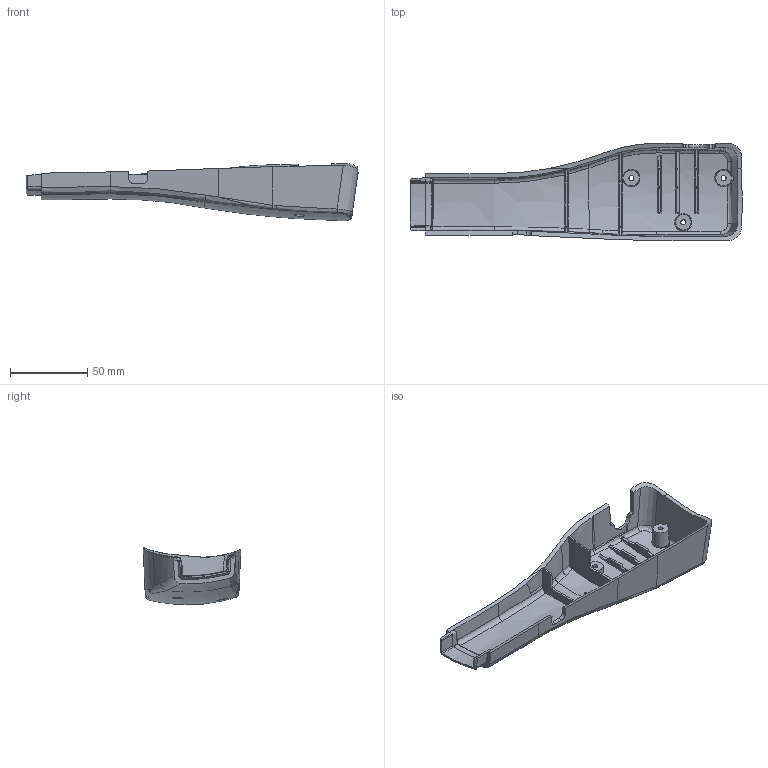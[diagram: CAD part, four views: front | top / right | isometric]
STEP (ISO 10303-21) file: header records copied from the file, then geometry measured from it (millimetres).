
FILE_DESCRIPTION (( 'STEP AP214' ), '1' );
FILE_NAME ('P-00106 - Servo Cover - v2.2.3_Right Motor Cover.STEP', '2026-06-12T21:53:00', ( '' ), ( '' ), 'SwSTEP 2.0', 'SolidWorks 2023', '' );
FILE_SCHEMA (( 'AUTOMOTIVE_DESIGN' ));
Length unit declared in the file: inch
Products named in the file (1): P-00106 - Servo Cover - v2.2.3_Right Motor Cover
Bounding box: 214.3 x 63 x 36.97 mm (x, y, z)
Volume: 56042.9 mm3; surface area: 43092.6 mm2
Topology: 1 solids, 1 shells, 286 faces, 751 edges, 463 vertices
Faces by surface type: bspline 148, plane 67, cylinder 32, cone 28, sphere 8, torus 3
Entity records: 17868 total; most frequent: CARTESIAN_POINT 12257, ORIENTED_EDGE 1484, EDGE_CURVE 742, DIRECTION 698, VERTEX_POINT 463, B_SPLINE_CURVE_WITH_KNOTS 412, EDGE_LOOP 297, ADVANCED_FACE 286
